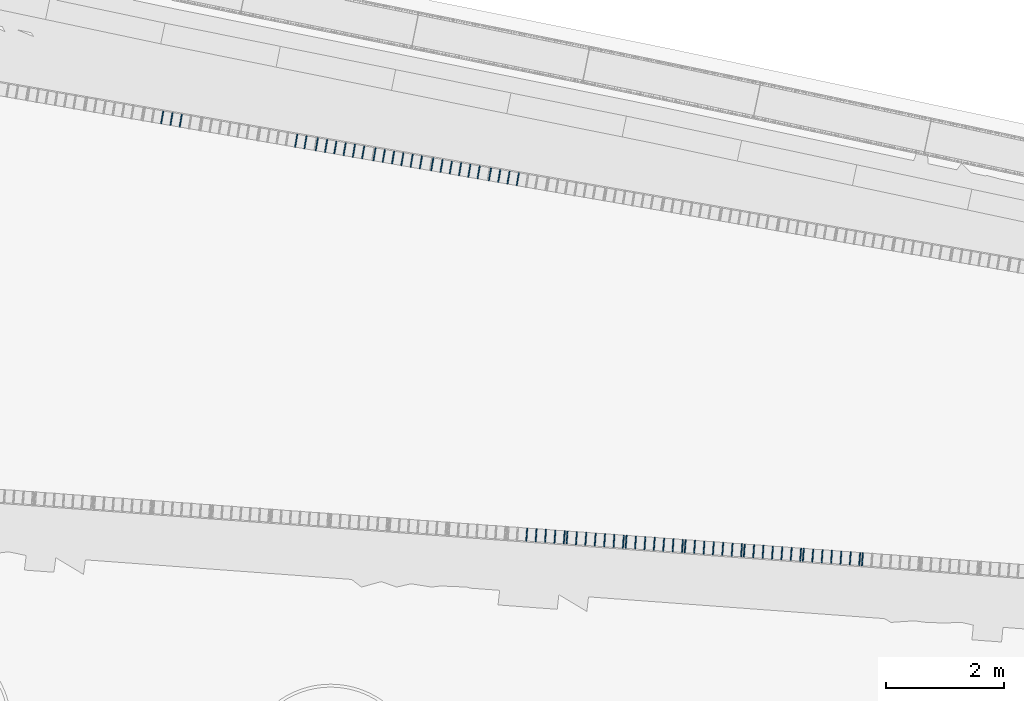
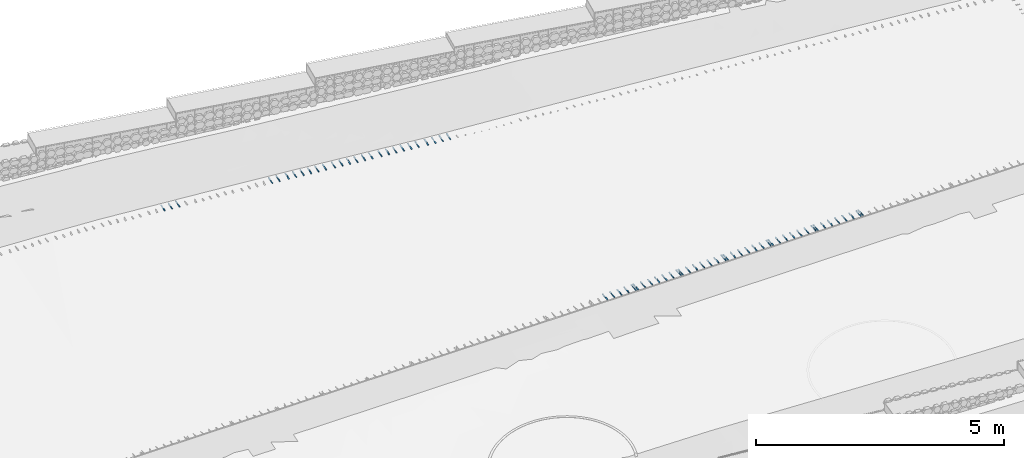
# Not in any storey, part 6 of 33: 68 members.
"""IFC4 model written with IfcOpenShell, lengths in metres."""

from ifc_helpers import new_model, si_unit, direction, frame, origin_with_axes, place, context, subcontext, project, spatial, rectangle, extrude, material, material_profile, profile_set, profile_usage, type_object, element, save


model = new_model("IFC4")

# Units and contexts
model_context = context("Model", 3, precision=1e-05, world=origin_with_axes(), true_north=direction((0.0, 1.0)))
body_context = subcontext(model_context, "Body", "Model", "MODEL_VIEW")
ifc_project = project(units=[si_unit("LENGTHUNIT", "METRE"), si_unit("AREAUNIT", "SQUARE_METRE"), si_unit("VOLUMEUNIT", "CUBIC_METRE")], contexts=[model_context])

# Site
site_placement = place(None, origin_with_axes())
site = spatial("IfcSite", under=ifc_project, at=site_placement, Name="Lares · Rua das Mercês · artigo 4771")

# Members
ifc_material = material(Name="Aço galvanizado / Stahl verzinkt", Category="steel")
ifc_material_profile = material_profile(ifc_material, rectangle(XDim=0.018, YDim=0.018))
ifc_profile_set = profile_set([ifc_material_profile], Name="R0.018")
ifc_profile_usage_1 = profile_usage(ifc_profile_set)
member_type = type_object("IfcMemberType", Name="R0.018 / galvanized", PredefinedType="NOTDEFINED", material=ifc_profile_set)
member_1_placement = place(site_placement, frame((71.0962218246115, 1.42423033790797, 15.4676314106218), z_axis=(0.073306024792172, 0.997309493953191, 0.0), x_axis=(0.997309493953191, -0.0733060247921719, 0.0)))
element("IfcMember", 1, at=member_1_placement, inside=site, type_object=member_type, material=ifc_profile_usage_1, Name="Acesso · dreno lateral raso · grelha", context=body_context, shape_type="SweptSolid", body=[
    extrude(rectangle(XDim=0.018, YDim=0.018), origin_with_axes(), (0.0, 0.0, 1.0), 0.219999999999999),
])
ifc_profile_usage_2 = profile_usage(ifc_profile_set)
member_2_placement = place(site_placement, frame((71.255791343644, 1.41250137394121, 15.4763032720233), z_axis=(0.073306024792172, 0.997309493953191, 0.0), x_axis=(0.997309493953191, -0.0733060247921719, 0.0)))
element("IfcMember", 2, at=member_2_placement, inside=site, type_object=member_type, material=ifc_profile_usage_2, Name="Acesso · dreno lateral raso · grelha", context=body_context, shape_type="SweptSolid", body=[
    extrude(rectangle(XDim=0.018, YDim=0.018), origin_with_axes(), (0.0, 0.0, 1.0), 0.219999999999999),
])
ifc_profile_usage_3 = profile_usage(ifc_profile_set)
member_3_placement = place(site_placement, frame((71.4153608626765, 1.40077240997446, 15.4849751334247), z_axis=(0.073306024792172, 0.997309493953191, 0.0), x_axis=(0.997309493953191, -0.0733060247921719, 0.0)))
element("IfcMember", 3, at=member_3_placement, inside=site, type_object=member_type, material=ifc_profile_usage_3, Name="Acesso · dreno lateral raso · grelha", context=body_context, shape_type="SweptSolid", body=[
    extrude(rectangle(XDim=0.018, YDim=0.018), origin_with_axes(), (0.0, 0.0, 1.0), 0.219999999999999),
])
ifc_profile_usage_4 = profile_usage(ifc_profile_set)
member_4_placement = place(site_placement, frame((71.574930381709, 1.3890434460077, 15.4936469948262), z_axis=(0.073306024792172, 0.997309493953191, 0.0), x_axis=(0.997309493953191, -0.0733060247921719, 0.0)))
element("IfcMember", 4, at=member_4_placement, inside=site, type_object=member_type, material=ifc_profile_usage_4, Name="Acesso · dreno lateral raso · grelha", context=body_context, shape_type="SweptSolid", body=[
    extrude(rectangle(XDim=0.018, YDim=0.018), origin_with_axes(), (0.0, 0.0, 1.0), 0.219999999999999),
])
ifc_profile_usage_5 = profile_usage(ifc_profile_set)
member_5_placement = place(site_placement, frame((71.7344999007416, 1.37731448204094, 15.5023188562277), z_axis=(0.073306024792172, 0.997309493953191, 0.0), x_axis=(0.997309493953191, -0.0733060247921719, 0.0)))
element("IfcMember", 5, at=member_5_placement, inside=site, type_object=member_type, material=ifc_profile_usage_5, Name="Acesso · dreno lateral raso · grelha", context=body_context, shape_type="SweptSolid", body=[
    extrude(rectangle(XDim=0.018, YDim=0.018), origin_with_axes(), (0.0, 0.0, 1.0), 0.219999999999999),
])
ifc_profile_usage_6 = profile_usage(ifc_profile_set)
member_6_placement = place(site_placement, frame((71.781128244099, 1.37388711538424, 15.5049313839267), z_axis=(0.0733062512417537, 0.997309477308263, 0.0), x_axis=(0.997309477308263, -0.0733062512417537, 0.0)))
element("IfcMember", 6, at=member_6_placement, inside=site, type_object=member_type, material=ifc_profile_usage_6, Name="Acesso · dreno lateral raso · grelha", context=body_context, shape_type="SweptSolid", body=[
    extrude(rectangle(XDim=0.018, YDim=0.018), origin_with_axes(), (0.0, 0.0, 1.0), 0.220000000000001),
])
ifc_profile_usage_7 = profile_usage(ifc_profile_set)
member_7_placement = place(site_placement, frame((71.9406977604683, 1.36215811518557, 15.514021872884), z_axis=(0.0733062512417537, 0.997309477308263, 0.0), x_axis=(0.997309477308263, -0.0733062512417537, 0.0)))
element("IfcMember", 7, at=member_7_placement, inside=site, type_object=member_type, material=ifc_profile_usage_7, Name="Acesso · dreno lateral raso · grelha", context=body_context, shape_type="SweptSolid", body=[
    extrude(rectangle(XDim=0.018, YDim=0.018), origin_with_axes(), (0.0, 0.0, 1.0), 0.220000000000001),
])
ifc_profile_usage_8 = profile_usage(ifc_profile_set)
member_8_placement = place(site_placement, frame((72.1002672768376, 1.35042911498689, 15.5231123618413), z_axis=(0.0733062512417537, 0.997309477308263, 0.0), x_axis=(0.997309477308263, -0.0733062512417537, 0.0)))
element("IfcMember", 8, at=member_8_placement, inside=site, type_object=member_type, material=ifc_profile_usage_8, Name="Acesso · dreno lateral raso · grelha", context=body_context, shape_type="SweptSolid", body=[
    extrude(rectangle(XDim=0.018, YDim=0.018), origin_with_axes(), (0.0, 0.0, 1.0), 0.220000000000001),
])
ifc_profile_usage_9 = profile_usage(ifc_profile_set)
member_9_placement = place(site_placement, frame((72.2598367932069, 1.33870011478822, 15.5322028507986), z_axis=(0.0733062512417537, 0.997309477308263, 0.0), x_axis=(0.997309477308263, -0.0733062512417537, 0.0)))
element("IfcMember", 9, at=member_9_placement, inside=site, type_object=member_type, material=ifc_profile_usage_9, Name="Acesso · dreno lateral raso · grelha", context=body_context, shape_type="SweptSolid", body=[
    extrude(rectangle(XDim=0.018, YDim=0.018), origin_with_axes(), (0.0, 0.0, 1.0), 0.220000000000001),
])
ifc_profile_usage_10 = profile_usage(ifc_profile_set)
member_10_placement = place(site_placement, frame((72.4194063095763, 1.32697111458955, 15.5412933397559), z_axis=(0.0733062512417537, 0.997309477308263, 0.0), x_axis=(0.997309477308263, -0.0733062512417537, 0.0)))
element("IfcMember", 10, at=member_10_placement, inside=site, type_object=member_type, material=ifc_profile_usage_10, Name="Acesso · dreno lateral raso · grelha", context=body_context, shape_type="SweptSolid", body=[
    extrude(rectangle(XDim=0.018, YDim=0.018), origin_with_axes(), (0.0, 0.0, 1.0), 0.220000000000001),
])
ifc_profile_usage_11 = profile_usage(ifc_profile_set)
member_11_placement = place(site_placement, frame((72.5789758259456, 1.31524211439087, 15.5503838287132), z_axis=(0.0733062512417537, 0.997309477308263, 0.0), x_axis=(0.997309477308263, -0.0733062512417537, 0.0)))
element("IfcMember", 11, at=member_11_placement, inside=site, type_object=member_type, material=ifc_profile_usage_11, Name="Acesso · dreno lateral raso · grelha", context=body_context, shape_type="SweptSolid", body=[
    extrude(rectangle(XDim=0.018, YDim=0.018), origin_with_axes(), (0.0, 0.0, 1.0), 0.220000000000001),
])
ifc_profile_usage_12 = profile_usage(ifc_profile_set)
member_12_placement = place(site_placement, frame((72.7385453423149, 1.3035131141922, 15.5594743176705), z_axis=(0.0733062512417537, 0.997309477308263, 0.0), x_axis=(0.997309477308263, -0.0733062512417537, 0.0)))
element("IfcMember", 12, at=member_12_placement, inside=site, type_object=member_type, material=ifc_profile_usage_12, Name="Acesso · dreno lateral raso · grelha", context=body_context, shape_type="SweptSolid", body=[
    extrude(rectangle(XDim=0.018, YDim=0.018), origin_with_axes(), (0.0, 0.0, 1.0), 0.220000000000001),
])
ifc_profile_usage_13 = profile_usage(ifc_profile_set)
member_13_placement = place(site_placement, frame((72.7851650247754, 1.30008637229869, 15.5621514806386), z_axis=(0.073306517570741, 0.997309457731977, 0.0), x_axis=(0.997309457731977, -0.073306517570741, 0.0)))
element("IfcMember", 13, at=member_13_placement, inside=site, type_object=member_type, material=ifc_profile_usage_13, Name="Acesso · dreno lateral raso · grelha", context=body_context, shape_type="SweptSolid", body=[
    extrude(rectangle(XDim=0.018, YDim=0.018), origin_with_axes(), (0.0, 0.0, 1.0), 0.22),
])
ifc_profile_usage_14 = profile_usage(ifc_profile_set)
member_14_placement = place(site_placement, frame((72.9447345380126, 1.28835732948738, 15.5713555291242), z_axis=(0.073306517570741, 0.997309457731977, 0.0), x_axis=(0.997309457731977, -0.073306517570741, 0.0)))
element("IfcMember", 14, at=member_14_placement, inside=site, type_object=member_type, material=ifc_profile_usage_14, Name="Acesso · dreno lateral raso · grelha", context=body_context, shape_type="SweptSolid", body=[
    extrude(rectangle(XDim=0.018, YDim=0.018), origin_with_axes(), (0.0, 0.0, 1.0), 0.22),
])
ifc_profile_usage_15 = profile_usage(ifc_profile_set)
member_15_placement = place(site_placement, frame((73.1043040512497, 1.27662828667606, 15.5805595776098), z_axis=(0.073306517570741, 0.997309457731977, 0.0), x_axis=(0.997309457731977, -0.073306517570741, 0.0)))
element("IfcMember", 15, at=member_15_placement, inside=site, type_object=member_type, material=ifc_profile_usage_15, Name="Acesso · dreno lateral raso · grelha", context=body_context, shape_type="SweptSolid", body=[
    extrude(rectangle(XDim=0.018, YDim=0.018), origin_with_axes(), (0.0, 0.0, 1.0), 0.22),
])
ifc_profile_usage_16 = profile_usage(ifc_profile_set)
member_16_placement = place(site_placement, frame((73.2638735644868, 1.26489924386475, 15.5897636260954), z_axis=(0.073306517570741, 0.997309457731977, 0.0), x_axis=(0.997309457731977, -0.073306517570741, 0.0)))
element("IfcMember", 16, at=member_16_placement, inside=site, type_object=member_type, material=ifc_profile_usage_16, Name="Acesso · dreno lateral raso · grelha", context=body_context, shape_type="SweptSolid", body=[
    extrude(rectangle(XDim=0.018, YDim=0.018), origin_with_axes(), (0.0, 0.0, 1.0), 0.22),
])
ifc_profile_usage_17 = profile_usage(ifc_profile_set)
member_17_placement = place(site_placement, frame((73.4234430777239, 1.25317020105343, 15.5989676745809), z_axis=(0.073306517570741, 0.997309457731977, 0.0), x_axis=(0.997309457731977, -0.073306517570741, 0.0)))
element("IfcMember", 17, at=member_17_placement, inside=site, type_object=member_type, material=ifc_profile_usage_17, Name="Acesso · dreno lateral raso · grelha", context=body_context, shape_type="SweptSolid", body=[
    extrude(rectangle(XDim=0.018, YDim=0.018), origin_with_axes(), (0.0, 0.0, 1.0), 0.22),
])
ifc_profile_usage_18 = profile_usage(ifc_profile_set)
member_18_placement = place(site_placement, frame((73.583012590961, 1.24144115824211, 15.6081717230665), z_axis=(0.073306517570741, 0.997309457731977, 0.0), x_axis=(0.997309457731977, -0.073306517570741, 0.0)))
element("IfcMember", 18, at=member_18_placement, inside=site, type_object=member_type, material=ifc_profile_usage_18, Name="Acesso · dreno lateral raso · grelha", context=body_context, shape_type="SweptSolid", body=[
    extrude(rectangle(XDim=0.018, YDim=0.018), origin_with_axes(), (0.0, 0.0, 1.0), 0.22),
])
ifc_profile_usage_19 = profile_usage(ifc_profile_set)
member_19_placement = place(site_placement, frame((73.7425821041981, 1.2297121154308, 15.6173757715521), z_axis=(0.073306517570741, 0.997309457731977, 0.0), x_axis=(0.997309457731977, -0.073306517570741, 0.0)))
element("IfcMember", 19, at=member_19_placement, inside=site, type_object=member_type, material=ifc_profile_usage_19, Name="Acesso · dreno lateral raso · grelha", context=body_context, shape_type="SweptSolid", body=[
    extrude(rectangle(XDim=0.018, YDim=0.018), origin_with_axes(), (0.0, 0.0, 1.0), 0.22),
])
ifc_profile_usage_20 = profile_usage(ifc_profile_set)
member_20_placement = place(site_placement, frame((73.7891926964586, 1.22628602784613, 15.6200642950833), z_axis=(0.0733068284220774, 0.997309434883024, 0.0), x_axis=(0.997309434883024, -0.0733068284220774, 0.0)))
element("IfcMember", 20, at=member_20_placement, inside=site, type_object=member_type, material=ifc_profile_usage_20, Name="Acesso · dreno lateral raso · grelha", context=body_context, shape_type="SweptSolid", body=[
    extrude(rectangle(XDim=0.018, YDim=0.018), origin_with_axes(), (0.0, 0.0, 1.0), 0.220000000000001),
])
ifc_profile_usage_21 = profile_usage(ifc_profile_set)
member_21_placement = place(site_placement, frame((73.9487622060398, 1.2145569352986, 15.629268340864), z_axis=(0.0733068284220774, 0.997309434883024, 0.0), x_axis=(0.997309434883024, -0.0733068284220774, 0.0)))
element("IfcMember", 21, at=member_21_placement, inside=site, type_object=member_type, material=ifc_profile_usage_21, Name="Acesso · dreno lateral raso · grelha", context=body_context, shape_type="SweptSolid", body=[
    extrude(rectangle(XDim=0.018, YDim=0.018), origin_with_axes(), (0.0, 0.0, 1.0), 0.220000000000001),
])
ifc_profile_usage_22 = profile_usage(ifc_profile_set)
member_22_placement = place(site_placement, frame((74.1083317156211, 1.20282784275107, 15.6384723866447), z_axis=(0.0733068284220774, 0.997309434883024, 0.0), x_axis=(0.997309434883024, -0.0733068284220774, 0.0)))
element("IfcMember", 22, at=member_22_placement, inside=site, type_object=member_type, material=ifc_profile_usage_22, Name="Acesso · dreno lateral raso · grelha", context=body_context, shape_type="SweptSolid", body=[
    extrude(rectangle(XDim=0.018, YDim=0.018), origin_with_axes(), (0.0, 0.0, 1.0), 0.220000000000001),
])
ifc_profile_usage_23 = profile_usage(ifc_profile_set)
member_23_placement = place(site_placement, frame((74.2679012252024, 1.19109875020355, 15.6476764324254), z_axis=(0.0733068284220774, 0.997309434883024, 0.0), x_axis=(0.997309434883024, -0.0733068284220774, 0.0)))
element("IfcMember", 23, at=member_23_placement, inside=site, type_object=member_type, material=ifc_profile_usage_23, Name="Acesso · dreno lateral raso · grelha", context=body_context, shape_type="SweptSolid", body=[
    extrude(rectangle(XDim=0.018, YDim=0.018), origin_with_axes(), (0.0, 0.0, 1.0), 0.220000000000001),
])
ifc_profile_usage_24 = profile_usage(ifc_profile_set)
member_24_placement = place(site_placement, frame((74.4274707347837, 1.17936965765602, 15.6568804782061), z_axis=(0.0733068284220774, 0.997309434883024, 0.0), x_axis=(0.997309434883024, -0.0733068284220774, 0.0)))
element("IfcMember", 24, at=member_24_placement, inside=site, type_object=member_type, material=ifc_profile_usage_24, Name="Acesso · dreno lateral raso · grelha", context=body_context, shape_type="SweptSolid", body=[
    extrude(rectangle(XDim=0.018, YDim=0.018), origin_with_axes(), (0.0, 0.0, 1.0), 0.220000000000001),
])
ifc_profile_usage_25 = profile_usage(ifc_profile_set)
member_25_placement = place(site_placement, frame((74.587040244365, 1.1676405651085, 15.6660845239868), z_axis=(0.0733068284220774, 0.997309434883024, 0.0), x_axis=(0.997309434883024, -0.0733068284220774, 0.0)))
element("IfcMember", 25, at=member_25_placement, inside=site, type_object=member_type, material=ifc_profile_usage_25, Name="Acesso · dreno lateral raso · grelha", context=body_context, shape_type="SweptSolid", body=[
    extrude(rectangle(XDim=0.018, YDim=0.018), origin_with_axes(), (0.0, 0.0, 1.0), 0.220000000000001),
])
ifc_profile_usage_26 = profile_usage(ifc_profile_set)
member_26_placement = place(site_placement, frame((74.7466097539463, 1.15591147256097, 15.6752885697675), z_axis=(0.0733068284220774, 0.997309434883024, 0.0), x_axis=(0.997309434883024, -0.0733068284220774, 0.0)))
element("IfcMember", 26, at=member_26_placement, inside=site, type_object=member_type, material=ifc_profile_usage_26, Name="Acesso · dreno lateral raso · grelha", context=body_context, shape_type="SweptSolid", body=[
    extrude(rectangle(XDim=0.018, YDim=0.018), origin_with_axes(), (0.0, 0.0, 1.0), 0.220000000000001),
])
ifc_profile_usage_27 = profile_usage(ifc_profile_set)
member_27_placement = place(site_placement, frame((74.7932107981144, 1.15248607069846, 15.6779765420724), z_axis=(0.0733071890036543, 0.997309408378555, 0.0), x_axis=(0.997309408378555, -0.0733071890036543, 0.0)))
element("IfcMember", 27, at=member_27_placement, inside=site, type_object=member_type, material=ifc_profile_usage_27, Name="Acesso · dreno lateral raso · grelha", context=body_context, shape_type="SweptSolid", body=[
    extrude(rectangle(XDim=0.018, YDim=0.018), origin_with_axes(), (0.0, 0.0, 1.0), 0.22),
])
ifc_profile_usage_28 = profile_usage(ifc_profile_set)
member_28_placement = place(site_placement, frame((74.952780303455, 1.14075692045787, 15.6871805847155), z_axis=(0.0733071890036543, 0.997309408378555, 0.0), x_axis=(0.997309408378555, -0.0733071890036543, 0.0)))
element("IfcMember", 28, at=member_28_placement, inside=site, type_object=member_type, material=ifc_profile_usage_28, Name="Acesso · dreno lateral raso · grelha", context=body_context, shape_type="SweptSolid", body=[
    extrude(rectangle(XDim=0.018, YDim=0.018), origin_with_axes(), (0.0, 0.0, 1.0), 0.22),
])
ifc_profile_usage_29 = profile_usage(ifc_profile_set)
member_29_placement = place(site_placement, frame((75.1123498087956, 1.12902777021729, 15.6963846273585), z_axis=(0.0733071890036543, 0.997309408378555, 0.0), x_axis=(0.997309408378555, -0.0733071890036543, 0.0)))
element("IfcMember", 29, at=member_29_placement, inside=site, type_object=member_type, material=ifc_profile_usage_29, Name="Acesso · dreno lateral raso · grelha", context=body_context, shape_type="SweptSolid", body=[
    extrude(rectangle(XDim=0.018, YDim=0.018), origin_with_axes(), (0.0, 0.0, 1.0), 0.22),
])
ifc_profile_usage_30 = profile_usage(ifc_profile_set)
member_30_placement = place(site_placement, frame((75.2719193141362, 1.11729861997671, 15.7055886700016), z_axis=(0.0733071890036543, 0.997309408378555, 0.0), x_axis=(0.997309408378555, -0.0733071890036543, 0.0)))
element("IfcMember", 30, at=member_30_placement, inside=site, type_object=member_type, material=ifc_profile_usage_30, Name="Acesso · dreno lateral raso · grelha", context=body_context, shape_type="SweptSolid", body=[
    extrude(rectangle(XDim=0.018, YDim=0.018), origin_with_axes(), (0.0, 0.0, 1.0), 0.22),
])
ifc_profile_usage_31 = profile_usage(ifc_profile_set)
member_31_placement = place(site_placement, frame((75.4314888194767, 1.10556946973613, 15.7147927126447), z_axis=(0.0733071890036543, 0.997309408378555, 0.0), x_axis=(0.997309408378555, -0.0733071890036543, 0.0)))
element("IfcMember", 31, at=member_31_placement, inside=site, type_object=member_type, material=ifc_profile_usage_31, Name="Acesso · dreno lateral raso · grelha", context=body_context, shape_type="SweptSolid", body=[
    extrude(rectangle(XDim=0.018, YDim=0.018), origin_with_axes(), (0.0, 0.0, 1.0), 0.22),
])
ifc_profile_usage_32 = profile_usage(ifc_profile_set)
member_32_placement = place(site_placement, frame((75.5910583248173, 1.09384031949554, 15.7239967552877), z_axis=(0.0733071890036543, 0.997309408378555, 0.0), x_axis=(0.997309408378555, -0.0733071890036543, 0.0)))
element("IfcMember", 32, at=member_32_placement, inside=site, type_object=member_type, material=ifc_profile_usage_32, Name="Acesso · dreno lateral raso · grelha", context=body_context, shape_type="SweptSolid", body=[
    extrude(rectangle(XDim=0.018, YDim=0.018), origin_with_axes(), (0.0, 0.0, 1.0), 0.22),
])
ifc_profile_usage_33 = profile_usage(ifc_profile_set)
member_33_placement = place(site_placement, frame((75.7506278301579, 1.08211116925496, 15.7332007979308), z_axis=(0.0733071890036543, 0.997309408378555, 0.0), x_axis=(0.997309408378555, -0.0733071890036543, 0.0)))
element("IfcMember", 33, at=member_33_placement, inside=site, type_object=member_type, material=ifc_profile_usage_33, Name="Acesso · dreno lateral raso · grelha", context=body_context, shape_type="SweptSolid", body=[
    extrude(rectangle(XDim=0.018, YDim=0.018), origin_with_axes(), (0.0, 0.0, 1.0), 0.22),
])
ifc_profile_usage_34 = profile_usage(ifc_profile_set)
member_34_placement = place(site_placement, frame((75.797218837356, 1.07868648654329, 15.7358881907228), z_axis=(0.0733076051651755, 0.997309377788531, 0.0), x_axis=(0.997309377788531, -0.0733076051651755, 0.0)))
element("IfcMember", 34, at=member_34_placement, inside=site, type_object=member_type, material=ifc_profile_usage_34, Name="Acesso · dreno lateral raso · grelha", context=body_context, shape_type="SweptSolid", body=[
    extrude(rectangle(XDim=0.018, YDim=0.018), origin_with_axes(), (0.0, 0.0, 1.0), 0.220000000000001),
])
ifc_profile_usage_35 = profile_usage(ifc_profile_set)
member_35_placement = place(site_placement, frame((75.9567883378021, 1.06695726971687, 15.7450922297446), z_axis=(0.0733076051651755, 0.997309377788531, 0.0), x_axis=(0.997309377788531, -0.0733076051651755, 0.0)))
element("IfcMember", 35, at=member_35_placement, inside=site, type_object=member_type, material=ifc_profile_usage_35, Name="Acesso · dreno lateral raso · grelha", context=body_context, shape_type="SweptSolid", body=[
    extrude(rectangle(XDim=0.018, YDim=0.018), origin_with_axes(), (0.0, 0.0, 1.0), 0.220000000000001),
])
ifc_profile_usage_36 = profile_usage(ifc_profile_set)
member_36_placement = place(site_placement, frame((76.1163578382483, 1.05522805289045, 15.7542962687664), z_axis=(0.0733076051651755, 0.997309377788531, 0.0), x_axis=(0.997309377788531, -0.0733076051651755, 0.0)))
element("IfcMember", 36, at=member_36_placement, inside=site, type_object=member_type, material=ifc_profile_usage_36, Name="Acesso · dreno lateral raso · grelha", context=body_context, shape_type="SweptSolid", body=[
    extrude(rectangle(XDim=0.018, YDim=0.018), origin_with_axes(), (0.0, 0.0, 1.0), 0.220000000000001),
])
ifc_profile_usage_37 = profile_usage(ifc_profile_set)
member_37_placement = place(site_placement, frame((76.2759273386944, 1.04349883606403, 15.7635003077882), z_axis=(0.0733076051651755, 0.997309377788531, 0.0), x_axis=(0.997309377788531, -0.0733076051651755, 0.0)))
element("IfcMember", 37, at=member_37_placement, inside=site, type_object=member_type, material=ifc_profile_usage_37, Name="Acesso · dreno lateral raso · grelha", context=body_context, shape_type="SweptSolid", body=[
    extrude(rectangle(XDim=0.018, YDim=0.018), origin_with_axes(), (0.0, 0.0, 1.0), 0.220000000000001),
])
ifc_profile_usage_38 = profile_usage(ifc_profile_set)
member_38_placement = place(site_placement, frame((76.4354968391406, 1.0317696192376, 15.77270434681), z_axis=(0.0733076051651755, 0.997309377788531, 0.0), x_axis=(0.997309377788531, -0.0733076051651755, 0.0)))
element("IfcMember", 38, at=member_38_placement, inside=site, type_object=member_type, material=ifc_profile_usage_38, Name="Acesso · dreno lateral raso · grelha", context=body_context, shape_type="SweptSolid", body=[
    extrude(rectangle(XDim=0.018, YDim=0.018), origin_with_axes(), (0.0, 0.0, 1.0), 0.220000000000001),
])
ifc_profile_usage_39 = profile_usage(ifc_profile_set)
member_39_placement = place(site_placement, frame((76.5950663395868, 1.02004040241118, 15.7819083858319), z_axis=(0.0733076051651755, 0.997309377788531, 0.0), x_axis=(0.997309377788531, -0.0733076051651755, 0.0)))
element("IfcMember", 39, at=member_39_placement, inside=site, type_object=member_type, material=ifc_profile_usage_39, Name="Acesso · dreno lateral raso · grelha", context=body_context, shape_type="SweptSolid", body=[
    extrude(rectangle(XDim=0.018, YDim=0.018), origin_with_axes(), (0.0, 0.0, 1.0), 0.220000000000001),
])
ifc_profile_usage_40 = profile_usage(ifc_profile_set)
member_40_placement = place(site_placement, frame((76.754635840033, 1.00831118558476, 15.7911124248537), z_axis=(0.0733076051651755, 0.997309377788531, 0.0), x_axis=(0.997309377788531, -0.0733076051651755, 0.0)))
element("IfcMember", 40, at=member_40_placement, inside=site, type_object=member_type, material=ifc_profile_usage_40, Name="Acesso · dreno lateral raso · grelha", context=body_context, shape_type="SweptSolid", body=[
    extrude(rectangle(XDim=0.018, YDim=0.018), origin_with_axes(), (0.0, 0.0, 1.0), 0.220000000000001),
])
ifc_profile_usage_41 = profile_usage(ifc_profile_set)
member_41_placement = place(site_placement, frame((76.8012162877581, 1.00488725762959, 15.7937992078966), z_axis=(0.0733080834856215, 0.997309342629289, 0.0), x_axis=(0.997309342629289, -0.0733080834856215, 0.0)))
element("IfcMember", 41, at=member_41_placement, inside=site, type_object=member_type, material=ifc_profile_usage_41, Name="Acesso · dreno lateral raso · grelha", context=body_context, shape_type="SweptSolid", body=[
    extrude(rectangle(XDim=0.018, YDim=0.018), origin_with_axes(), (0.0, 0.0, 1.0), 0.22),
])
ifc_profile_usage_42 = profile_usage(ifc_profile_set)
member_42_placement = place(site_placement, frame((64.890271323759, 8.51439773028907, 15.5283531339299), z_axis=(0.171143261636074, 0.985246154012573, 0.0), x_axis=(0.985246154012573, -0.171143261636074, 0.0)))
element("IfcMember", 42, at=member_42_placement, inside=site, type_object=member_type, material=ifc_profile_usage_42, Name="Acesso · dreno lateral raso · grelha", context=body_context, shape_type="SweptSolid", body=[
    extrude(rectangle(XDim=0.018, YDim=0.018), origin_with_axes(), (0.0, 0.0, 1.0), 0.220000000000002),
])
ifc_profile_usage_43 = profile_usage(ifc_profile_set)
member_43_placement = place(site_placement, frame((65.0479107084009, 8.48701480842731, 15.5367142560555), z_axis=(0.171143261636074, 0.985246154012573, 0.0), x_axis=(0.985246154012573, -0.171143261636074, 0.0)))
element("IfcMember", 43, at=member_43_placement, inside=site, type_object=member_type, material=ifc_profile_usage_43, Name="Acesso · dreno lateral raso · grelha", context=body_context, shape_type="SweptSolid", body=[
    extrude(rectangle(XDim=0.018, YDim=0.018), origin_with_axes(), (0.0, 0.0, 1.0), 0.220000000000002),
])
ifc_profile_usage_44 = profile_usage(ifc_profile_set)
member_44_placement = place(site_placement, frame((65.2055500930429, 8.45963188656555, 15.545075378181), z_axis=(0.171143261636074, 0.985246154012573, 0.0), x_axis=(0.985246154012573, -0.171143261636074, 0.0)))
element("IfcMember", 44, at=member_44_placement, inside=site, type_object=member_type, material=ifc_profile_usage_44, Name="Acesso · dreno lateral raso · grelha", context=body_context, shape_type="SweptSolid", body=[
    extrude(rectangle(XDim=0.018, YDim=0.018), origin_with_axes(), (0.0, 0.0, 1.0), 0.220000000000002),
])
ifc_profile_usage_45 = profile_usage(ifc_profile_set)
member_45_placement = place(site_placement, frame((67.167435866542, 8.11884198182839, 15.6454616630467), z_axis=(0.171141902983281, 0.985246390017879, 0.0), x_axis=(0.985246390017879, -0.171141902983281, 0.0)))
element("IfcMember", 45, at=member_45_placement, inside=site, type_object=member_type, material=ifc_profile_usage_45, Name="Acesso · dreno lateral raso · grelha", context=body_context, shape_type="SweptSolid", body=[
    extrude(rectangle(XDim=0.018, YDim=0.018), origin_with_axes(), (0.0, 0.0, 1.0), 0.220000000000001),
])
ifc_profile_usage_46 = profile_usage(ifc_profile_set)
member_46_placement = place(site_placement, frame((67.3250752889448, 8.09145927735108, 15.6529460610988), z_axis=(0.171141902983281, 0.985246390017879, 0.0), x_axis=(0.985246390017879, -0.171141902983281, 0.0)))
element("IfcMember", 46, at=member_46_placement, inside=site, type_object=member_type, material=ifc_profile_usage_46, Name="Acesso · dreno lateral raso · grelha", context=body_context, shape_type="SweptSolid", body=[
    extrude(rectangle(XDim=0.018, YDim=0.018), origin_with_axes(), (0.0, 0.0, 1.0), 0.220000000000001),
])
ifc_profile_usage_47 = profile_usage(ifc_profile_set)
member_47_placement = place(site_placement, frame((67.517830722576, 8.05797678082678, 15.6618569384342), z_axis=(0.171141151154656, 0.985246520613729, 0.0), x_axis=(0.985246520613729, -0.171141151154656, 0.0)))
element("IfcMember", 47, at=member_47_placement, inside=site, type_object=member_type, material=ifc_profile_usage_47, Name="Acesso · dreno lateral raso · grelha", context=body_context, shape_type="SweptSolid", body=[
    extrude(rectangle(XDim=0.018, YDim=0.018), origin_with_axes(), (0.0, 0.0, 1.0), 0.219999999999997),
])
ifc_profile_usage_48 = profile_usage(ifc_profile_set)
member_48_placement = place(site_placement, frame((67.6754701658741, 8.03059419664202, 15.6680573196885), z_axis=(0.171141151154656, 0.985246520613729, 0.0), x_axis=(0.985246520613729, -0.171141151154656, 0.0)))
element("IfcMember", 48, at=member_48_placement, inside=site, type_object=member_type, material=ifc_profile_usage_48, Name="Acesso · dreno lateral raso · grelha", context=body_context, shape_type="SweptSolid", body=[
    extrude(rectangle(XDim=0.018, YDim=0.018), origin_with_axes(), (0.0, 0.0, 1.0), 0.219999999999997),
])
ifc_profile_usage_49 = profile_usage(ifc_profile_set)
member_49_placement = place(site_placement, frame((67.8331096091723, 8.00321161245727, 15.6742577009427), z_axis=(0.171141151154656, 0.985246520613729, 0.0), x_axis=(0.985246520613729, -0.171141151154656, 0.0)))
element("IfcMember", 49, at=member_49_placement, inside=site, type_object=member_type, material=ifc_profile_usage_49, Name="Acesso · dreno lateral raso · grelha", context=body_context, shape_type="SweptSolid", body=[
    extrude(rectangle(XDim=0.018, YDim=0.018), origin_with_axes(), (0.0, 0.0, 1.0), 0.219999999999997),
])
ifc_profile_usage_50 = profile_usage(ifc_profile_set)
member_50_placement = place(site_placement, frame((67.9907490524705, 7.97582902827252, 15.6804580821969), z_axis=(0.171141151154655, 0.985246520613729, 0.0), x_axis=(0.985246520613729, -0.171141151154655, 0.0)))
element("IfcMember", 50, at=member_50_placement, inside=site, type_object=member_type, material=ifc_profile_usage_50, Name="Acesso · dreno lateral raso · grelha", context=body_context, shape_type="SweptSolid", body=[
    extrude(rectangle(XDim=0.018, YDim=0.018), origin_with_axes(), (0.0, 0.0, 1.0), 0.219999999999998),
])
ifc_profile_usage_51 = profile_usage(ifc_profile_set)
member_51_placement = place(site_placement, frame((68.1483884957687, 7.94844644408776, 15.6866584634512), z_axis=(0.171141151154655, 0.985246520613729, 0.0), x_axis=(0.985246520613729, -0.171141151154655, 0.0)))
element("IfcMember", 51, at=member_51_placement, inside=site, type_object=member_type, material=ifc_profile_usage_51, Name="Acesso · dreno lateral raso · grelha", context=body_context, shape_type="SweptSolid", body=[
    extrude(rectangle(XDim=0.018, YDim=0.018), origin_with_axes(), (0.0, 0.0, 1.0), 0.219999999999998),
])
ifc_profile_usage_52 = profile_usage(ifc_profile_set)
member_52_placement = place(site_placement, frame((68.3060279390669, 7.92106385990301, 15.6928588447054), z_axis=(0.171141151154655, 0.985246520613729, 0.0), x_axis=(0.985246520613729, -0.171141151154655, 0.0)))
element("IfcMember", 52, at=member_52_placement, inside=site, type_object=member_type, material=ifc_profile_usage_52, Name="Acesso · dreno lateral raso · grelha", context=body_context, shape_type="SweptSolid", body=[
    extrude(rectangle(XDim=0.018, YDim=0.018), origin_with_axes(), (0.0, 0.0, 1.0), 0.219999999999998),
])
ifc_profile_usage_53 = profile_usage(ifc_profile_set)
member_53_placement = place(site_placement, frame((68.498790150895, 7.88758033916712, 15.7004406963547), z_axis=(0.171140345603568, 0.985246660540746, 0.0), x_axis=(0.985246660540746, -0.171140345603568, 0.0)))
element("IfcMember", 53, at=member_53_placement, inside=site, type_object=member_type, material=ifc_profile_usage_53, Name="Acesso · dreno lateral raso · grelha", context=body_context, shape_type="SweptSolid", body=[
    extrude(rectangle(XDim=0.018, YDim=0.018), origin_with_axes(), (0.0, 0.0, 1.0), 0.220000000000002),
])
ifc_profile_usage_54 = profile_usage(ifc_profile_set)
member_54_placement = place(site_placement, frame((68.6564296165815, 7.86019788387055, 15.7066410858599), z_axis=(0.171140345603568, 0.985246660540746, 0.0), x_axis=(0.985246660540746, -0.171140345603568, 0.0)))
element("IfcMember", 54, at=member_54_placement, inside=site, type_object=member_type, material=ifc_profile_usage_54, Name="Acesso · dreno lateral raso · grelha", context=body_context, shape_type="SweptSolid", body=[
    extrude(rectangle(XDim=0.018, YDim=0.018), origin_with_axes(), (0.0, 0.0, 1.0), 0.220000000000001),
])
ifc_profile_usage_55 = profile_usage(ifc_profile_set)
member_55_placement = place(site_placement, frame((68.814069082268, 7.83281542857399, 15.7128414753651), z_axis=(0.171140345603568, 0.985246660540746, 0.0), x_axis=(0.985246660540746, -0.171140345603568, 0.0)))
element("IfcMember", 55, at=member_55_placement, inside=site, type_object=member_type, material=ifc_profile_usage_55, Name="Acesso · dreno lateral raso · grelha", context=body_context, shape_type="SweptSolid", body=[
    extrude(rectangle(XDim=0.018, YDim=0.018), origin_with_axes(), (0.0, 0.0, 1.0), 0.220000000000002),
])
ifc_profile_usage_56 = profile_usage(ifc_profile_set)
member_56_placement = place(site_placement, frame((68.9717085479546, 7.80543297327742, 15.7190418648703), z_axis=(0.171140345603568, 0.985246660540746, 0.0), x_axis=(0.985246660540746, -0.171140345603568, 0.0)))
element("IfcMember", 56, at=member_56_placement, inside=site, type_object=member_type, material=ifc_profile_usage_56, Name="Acesso · dreno lateral raso · grelha", context=body_context, shape_type="SweptSolid", body=[
    extrude(rectangle(XDim=0.018, YDim=0.018), origin_with_axes(), (0.0, 0.0, 1.0), 0.220000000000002),
])
ifc_profile_usage_57 = profile_usage(ifc_profile_set)
member_57_placement = place(site_placement, frame((69.1293480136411, 7.77805051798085, 15.7252422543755), z_axis=(0.171140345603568, 0.985246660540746, 0.0), x_axis=(0.985246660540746, -0.171140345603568, 0.0)))
element("IfcMember", 57, at=member_57_placement, inside=site, type_object=member_type, material=ifc_profile_usage_57, Name="Acesso · dreno lateral raso · grelha", context=body_context, shape_type="SweptSolid", body=[
    extrude(rectangle(XDim=0.018, YDim=0.018), origin_with_axes(), (0.0, 0.0, 1.0), 0.220000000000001),
])
ifc_profile_usage_58 = profile_usage(ifc_profile_set)
member_58_placement = place(site_placement, frame((69.2869874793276, 7.75066806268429, 15.7314426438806), z_axis=(0.171140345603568, 0.985246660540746, 0.0), x_axis=(0.985246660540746, -0.171140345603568, 0.0)))
element("IfcMember", 58, at=member_58_placement, inside=site, type_object=member_type, material=ifc_profile_usage_58, Name="Acesso · dreno lateral raso · grelha", context=body_context, shape_type="SweptSolid", body=[
    extrude(rectangle(XDim=0.018, YDim=0.018), origin_with_axes(), (0.0, 0.0, 1.0), 0.220000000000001),
])
ifc_profile_usage_59 = profile_usage(ifc_profile_set)
member_59_placement = place(site_placement, frame((69.4797567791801, 7.71718347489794, 15.7390247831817), z_axis=(0.171139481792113, 0.985246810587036, 0.0), x_axis=(0.985246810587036, -0.171139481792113, 0.0)))
element("IfcMember", 59, at=member_59_placement, inside=site, type_object=member_type, material=ifc_profile_usage_59, Name="Acesso · dreno lateral raso · grelha", context=body_context, shape_type="SweptSolid", body=[
    extrude(rectangle(XDim=0.018, YDim=0.018), origin_with_axes(), (0.0, 0.0, 1.0), 0.220000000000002),
])
ifc_profile_usage_60 = profile_usage(ifc_profile_set)
member_60_placement = place(site_placement, frame((69.6373962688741, 7.68980115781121, 15.7452251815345), z_axis=(0.171139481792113, 0.985246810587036, 0.0), x_axis=(0.985246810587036, -0.171139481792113, 0.0)))
element("IfcMember", 60, at=member_60_placement, inside=site, type_object=member_type, material=ifc_profile_usage_60, Name="Acesso · dreno lateral raso · grelha", context=body_context, shape_type="SweptSolid", body=[
    extrude(rectangle(XDim=0.018, YDim=0.018), origin_with_axes(), (0.0, 0.0, 1.0), 0.220000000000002),
])
ifc_profile_usage_61 = profile_usage(ifc_profile_set)
member_61_placement = place(site_placement, frame((69.795035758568, 7.66241884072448, 15.7514255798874), z_axis=(0.171139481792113, 0.985246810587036, 0.0), x_axis=(0.985246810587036, -0.171139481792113, 0.0)))
element("IfcMember", 61, at=member_61_placement, inside=site, type_object=member_type, material=ifc_profile_usage_61, Name="Acesso · dreno lateral raso · grelha", context=body_context, shape_type="SweptSolid", body=[
    extrude(rectangle(XDim=0.018, YDim=0.018), origin_with_axes(), (0.0, 0.0, 1.0), 0.220000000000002),
])
ifc_profile_usage_62 = profile_usage(ifc_profile_set)
member_62_placement = place(site_placement, frame((69.9526752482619, 7.63503652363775, 15.7576259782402), z_axis=(0.171139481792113, 0.985246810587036, 0.0), x_axis=(0.985246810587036, -0.171139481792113, 0.0)))
element("IfcMember", 62, at=member_62_placement, inside=site, type_object=member_type, material=ifc_profile_usage_62, Name="Acesso · dreno lateral raso · grelha", context=body_context, shape_type="SweptSolid", body=[
    extrude(rectangle(XDim=0.018, YDim=0.018), origin_with_axes(), (0.0, 0.0, 1.0), 0.220000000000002),
])
ifc_profile_usage_63 = profile_usage(ifc_profile_set)
member_63_placement = place(site_placement, frame((70.1103147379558, 7.60765420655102, 15.7638263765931), z_axis=(0.171139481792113, 0.985246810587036, 0.0), x_axis=(0.985246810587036, -0.171139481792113, 0.0)))
element("IfcMember", 63, at=member_63_placement, inside=site, type_object=member_type, material=ifc_profile_usage_63, Name="Acesso · dreno lateral raso · grelha", context=body_context, shape_type="SweptSolid", body=[
    extrude(rectangle(XDim=0.018, YDim=0.018), origin_with_axes(), (0.0, 0.0, 1.0), 0.220000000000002),
])
ifc_profile_usage_64 = profile_usage(ifc_profile_set)
member_64_placement = place(site_placement, frame((70.2679542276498, 7.5802718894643, 15.770026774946), z_axis=(0.171139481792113, 0.985246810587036, 0.0), x_axis=(0.985246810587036, -0.171139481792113, 0.0)))
element("IfcMember", 64, at=member_64_placement, inside=site, type_object=member_type, material=ifc_profile_usage_64, Name="Acesso · dreno lateral raso · grelha", context=body_context, shape_type="SweptSolid", body=[
    extrude(rectangle(XDim=0.018, YDim=0.018), origin_with_axes(), (0.0, 0.0, 1.0), 0.220000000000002),
])
ifc_profile_usage_65 = profile_usage(ifc_profile_set)
member_65_placement = place(site_placement, frame((70.4607309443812, 7.54678618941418, 15.7780083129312), z_axis=(0.171138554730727, 0.985246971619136, 0.0), x_axis=(0.985246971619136, -0.171138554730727, 0.0)))
element("IfcMember", 65, at=member_65_placement, inside=site, type_object=member_type, material=ifc_profile_usage_65, Name="Acesso · dreno lateral raso · grelha", context=body_context, shape_type="SweptSolid", body=[
    extrude(rectangle(XDim=0.018, YDim=0.018), origin_with_axes(), (0.0, 0.0, 1.0), 0.220000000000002),
])
ifc_profile_usage_66 = profile_usage(ifc_profile_set)
member_66_placement = place(site_placement, frame((70.6183704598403, 7.51940402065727, 15.7863372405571), z_axis=(0.171138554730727, 0.985246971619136, 0.0), x_axis=(0.985246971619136, -0.171138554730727, 0.0)))
element("IfcMember", 66, at=member_66_placement, inside=site, type_object=member_type, material=ifc_profile_usage_66, Name="Acesso · dreno lateral raso · grelha", context=body_context, shape_type="SweptSolid", body=[
    extrude(rectangle(XDim=0.018, YDim=0.018), origin_with_axes(), (0.0, 0.0, 1.0), 0.220000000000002),
])
ifc_profile_usage_67 = profile_usage(ifc_profile_set)
member_67_placement = place(site_placement, frame((70.7760099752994, 7.49202185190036, 15.7946661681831), z_axis=(0.171138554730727, 0.985246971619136, 0.0), x_axis=(0.985246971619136, -0.171138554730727, 0.0)))
element("IfcMember", 67, at=member_67_placement, inside=site, type_object=member_type, material=ifc_profile_usage_67, Name="Acesso · dreno lateral raso · grelha", context=body_context, shape_type="SweptSolid", body=[
    extrude(rectangle(XDim=0.018, YDim=0.018), origin_with_axes(), (0.0, 0.0, 1.0), 0.220000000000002),
])
ifc_profile_usage_68 = profile_usage(ifc_profile_set)
member_68_placement = place(site_placement, frame((70.9336494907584, 7.46463968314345, 15.802995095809), z_axis=(0.171138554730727, 0.985246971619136, 0.0), x_axis=(0.985246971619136, -0.171138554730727, 0.0)))
element("IfcMember", 68, at=member_68_placement, inside=site, type_object=member_type, material=ifc_profile_usage_68, Name="Acesso · dreno lateral raso · grelha", context=body_context, shape_type="SweptSolid", body=[
    extrude(rectangle(XDim=0.018, YDim=0.018), origin_with_axes(), (0.0, 0.0, 1.0), 0.220000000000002),
])

save(model, "model.ifc")
